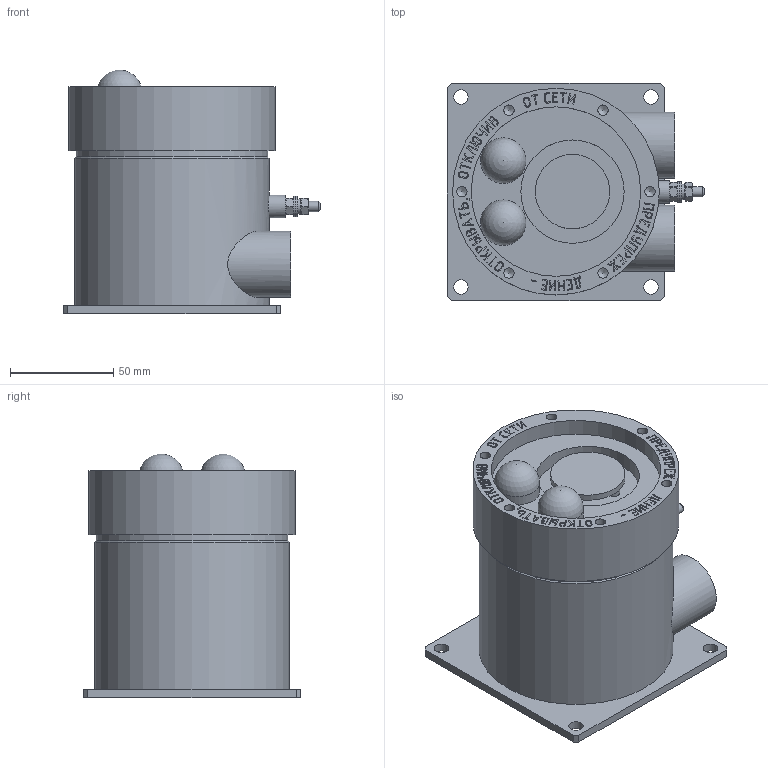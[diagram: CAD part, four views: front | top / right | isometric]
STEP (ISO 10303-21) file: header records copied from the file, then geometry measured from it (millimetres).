
FILE_DESCRIPTION(/* description */ (''),/* implementation_level */ '2;1');
FILE_NAME(/* name */ '\FS1\public\8A3EB671-9B96-4287-9F8C-C6E2AF1E6090\Документы отдела\!Новый даташит\ТермометрияМорские\КД\3D Модели\МОДЕЛИ ПОЖАРКИ ДЛЯ САЙТА\Модели для сайта\ExОПЗС стальной М20.stp',/* time_stamp */ '2018-01-31T15:08:31+03:00',/* author */ ('hudyakovak'),/* organization */ (''),/* preprocessor_version */ 'ST-DEVELOPER v16.1',/* originating_system */ 'Autodesk Inventor 2016',/* authorisation */ '');
FILE_SCHEMA (('AUTOMOTIVE_DESIGN { 1 0 10303 214 3 1 1 }'));
Length unit declared in the file: millimetre
Products named in the file (1): ExОПЗС \X2\044104420430043B044C043D
043E0439\X0\
Bounding box: 124.4 x 105 x 118 mm (x, y, z)
Volume: 755262.1 mm3; surface area: 77042.1 mm2
Topology: 2 solids, 2 shells, 751 faces, 2019 edges, 1343 vertices
Faces by surface type: plane 371, bspline 324, cylinder 42, cone 12, sphere 2
Full cylindrical faces by diameter (mm): 5 x7, 6 x3, 7 x4, 7.5 x1, 10 x2, 11 x1, 20 x2, 22 x2, 32 x2, 36 x1, 50 x1, 82 x1, 92.8 x1, 94 x1, 100 x1
Entity records: 24426 total; most frequent: CARTESIAN_POINT 8017, ORIENTED_EDGE 3916, DIRECTION 2225, EDGE_CURVE 1958, VERTEX_POINT 1327, LINE 1197, VECTOR 1197, EDGE_LOOP 879
